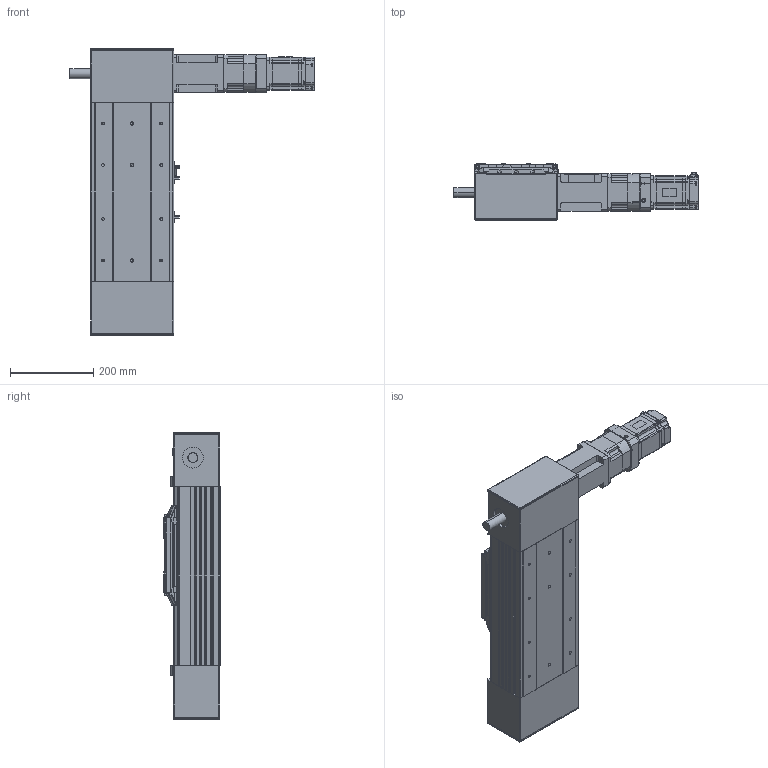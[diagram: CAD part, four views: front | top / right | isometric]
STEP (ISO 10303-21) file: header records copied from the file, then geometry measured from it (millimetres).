
FILE_DESCRIPTION(('Creo Elements/Direct Modeling STEP Export'),'2;1');
FILE_NAME('PCB200SDN-0000-ST100-75NR00-N-.STEP','2023-11-27T13:37:31',(''),(''),'Creo Elements/Direct Modeling STEP processor for AP214 (Solid Model)','Creo Elements/Direct Modeling 20.5A 14-Oct-2022 (C) Parametric Technology GmbH','');
FILE_SCHEMA(('AUTOMOTIVE_DESIGN { 1 0 10303 214 1 1 1 1 }'));
Length unit declared in the file: millimetre
Products named in the file (40): PCB200-100ST_BASE.PRT; M5_³ª»Ç_±¸¸Û1_1_-8120.PRT.1; ÇÊ·¿2-8068.PRT; ÇÊ·¿1-8075.PRT; M5_³ª»Ç_±¸¸Û1_2_-9426.PRT; M5_³ª»Ç_±¸¸Û1_1_-8120.PRT; PCB200-DRIVE_PULLEY_BLOCK_S.ASM; MOTOR_BRACKET.PRT; ÇÊ·¿1-8099.PRT; ÇÊ·¿2-9396.PRT; M5_³ª»Ç_±¸¸Û1_2_-9401.PRT; M5_³ª»Ç_±¸¸Û1_1_-9417.PRT; PCB200-IDLER_PULLEY_BLOCK_S.ASM; PCB200-CARRIER.PRT; PCB200-CARRIER_UPPER_COVER.PRT; PCB200-SENSOR_DOG.PRT; PCB200-CARRIER_END_COVER.PRT; PCB200-CARRIER_ASSY.ASM; 7WA90SD-B19__X2_FFFDFFFD_X0_U_X.PRT; KSB-90-1_NEW_.PRT; SB-SE_X2_FFFDFFFD_X0__-1-SOLID1.PRT; PT-1-8-2-SOLID1.PRT; _X2_FFFD_X0_O_X2_FFFDFFFD_X0___.PRT; 7MP90A_X2_FFFDFFFDFFFD_X0_F_X2_.PRT; SB-SE90_X2_FFFD_X0_X_X2_FF-9363.PRT; _X2_FFFDFFFDFFFDFFFD_X0___-9371.PRT; _X2_FFFDFFFDFFFDFFFD_X0___-9393.PRT; SB-SE90_X2_FFFD_X0_X_X2_FF-9399.PRT; _X2_FFFDFFFDFFFDFFFD_X0___-9403.PRT; _X2_FFFDFFFDFFFDFFFD_X0___-9422.PRT; SB-SE90_X2_FFFD_X0_X_X2_FF-9428.PRT; PT-1-8-1-SOLID1.PRT; _X2_FFFDFFFDFFFDFFFD_X0___-9444.PRT; _X2_FFFDFFFDFFFDFFFDFFFDFFFD_X0.PRT; PGX90-H-1_3.ASM; SGMJV_08A_A21.PRT; JC48C.PRT; EE_SX672.PRT; PCB200SDN-0000-ST100-75NR00-N-I.ASM; PCB200SDN-0000-ST100-75NR00-N-.STEP
Assembly tree (42 placements, depth 4):
  PCB200SDN-0000-ST100-75NR00-N-.STEP
    PCB200SDN-0000-ST100-75NR00-N-I.ASM
      EE_SX672.PRT  x3
      JC48C.PRT
      SGMJV_08A_A21.PRT
      PGX90-H-1_3.ASM
        _X2_FFFDFFFDFFFDFFFDFFFDFFFD_X0.PRT
        _X2_FFFDFFFDFFFDFFFD_X0___-9444.PRT
        PT-1-8-1-SOLID1.PRT
        SB-SE90_X2_FFFD_X0_X_X2_FF-9428.PRT
        _X2_FFFDFFFDFFFDFFFD_X0___-9422.PRT
        _X2_FFFDFFFDFFFDFFFD_X0___-9403.PRT
        SB-SE90_X2_FFFD_X0_X_X2_FF-9399.PRT
        _X2_FFFDFFFDFFFDFFFD_X0___-9393.PRT
        _X2_FFFDFFFDFFFDFFFD_X0___-9371.PRT
        SB-SE90_X2_FFFD_X0_X_X2_FF-9363.PRT
        7MP90A_X2_FFFDFFFDFFFD_X0_F_X2_.PRT
        _X2_FFFD_X0_O_X2_FFFDFFFD_X0___.PRT
        PT-1-8-2-SOLID1.PRT
        SB-SE_X2_FFFDFFFD_X0__-1-SOLID1.PRT
        KSB-90-1_NEW_.PRT
        7WA90SD-B19__X2_FFFDFFFD_X0_U_X.PRT
      PCB200-CARRIER_ASSY.ASM
        PCB200-CARRIER_END_COVER.PRT  x2
        PCB200-SENSOR_DOG.PRT
        PCB200-CARRIER_UPPER_COVER.PRT
        PCB200-CARRIER.PRT
      PCB200-IDLER_PULLEY_BLOCK_S.ASM
        M5_³ª»Ç_±¸¸Û1_1_-9417.PRT
        M5_³ª»Ç_±¸¸Û1_2_-9401.PRT
        ÇÊ·¿2-9396.PRT
        ÇÊ·¿1-8099.PRT
      MOTOR_BRACKET.PRT
      PCB200-DRIVE_PULLEY_BLOCK_S.ASM
        M5_³ª»Ç_±¸¸Û1_1_-8120.PRT
        M5_³ª»Ç_±¸¸Û1_2_-9426.PRT
        ÇÊ·¿1-8075.PRT
        ÇÊ·¿2-8068.PRT
        M5_³ª»Ç_±¸¸Û1_1_-8120.PRT.1
      PCB200-100ST_BASE.PRT
Bounding box: 588.6 x 136 x 690 mm (x, y, z)
Volume: 18021785.9 mm3; surface area: 1484885 mm2
Topology: 37 solids, 37 shells, 3166 faces, 8418 edges, 5367 vertices
Faces by surface type: plane 1866, cylinder 926, cone 216, torus 53, sphere 50, bspline 46, extrusion 9
Entity records: 85847 total; most frequent: CARTESIAN_POINT 17683, ORIENTED_EDGE 14330, DIRECTION 13374, EDGE_CURVE 7165, VECTOR 4896, LINE 4887, VERTEX_POINT 4642, AXIS2_PLACEMENT_3D 4239
